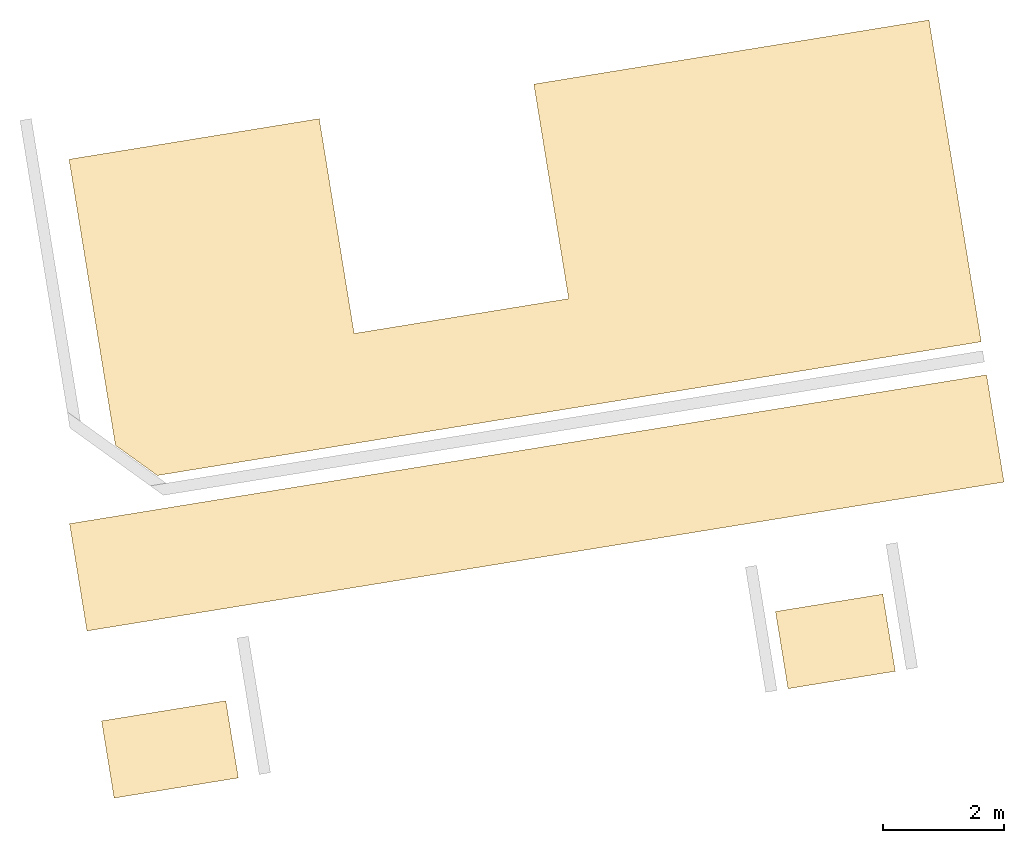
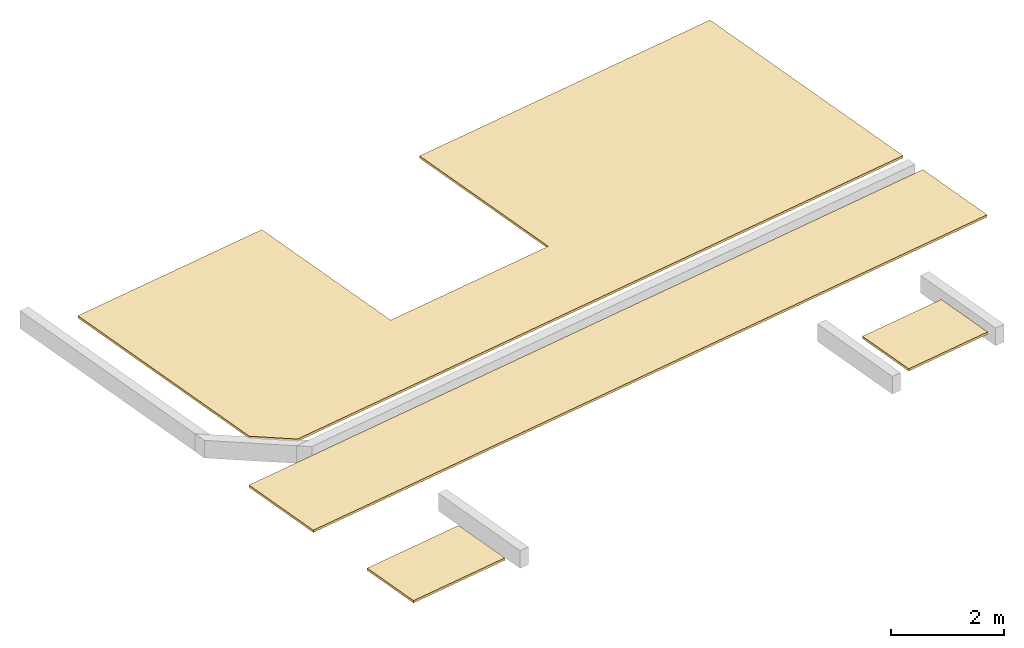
# One storey, part 2 of 2: 4 coverings.
"""IFC2X3 building model written with IfcOpenShell, lengths in millimetres."""

from ifc_helpers import new_model, entity, si_unit, converted_unit, derived_unit, direction, frame, origin, origin_with_axes, place, context, subcontext, project, spatial, faceted_brep, type_object, element, save


model = new_model("IFC2X3")

# Units and contexts
model_context = context("Model", 3, precision=0.01, world=origin(), true_north=direction((6.12323399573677e-17, 1.0)))
plan_context = context("Plan", 3, precision=1e-05, world=origin_with_axes())
body_context = subcontext(model_context, "Body", "Model", "MODEL_VIEW")
ifc_project = project(units=[converted_unit("PLANEANGLEUNIT", "DEGREE", entity("IfcPositiveLengthMeasure", 0.0174532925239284), si_unit("PLANEANGLEUNIT", "RADIAN"), dimensions=[0, 0, 0, 0, 0, 0, 0]), si_unit("AREAUNIT", "SQUARE_METRE"), si_unit("LENGTHUNIT", "METRE", prefix="MILLI"), si_unit("MASSUNIT", "GRAM", prefix="KILO"), si_unit("POWERUNIT", "WATT"), si_unit("PRESSUREUNIT", "PASCAL", prefix="KILO"), si_unit("FORCEUNIT", "NEWTON", prefix="KILO"), si_unit("ELECTRICVOLTAGEUNIT", "VOLT"), si_unit("ELECTRICCURRENTUNIT", "AMPERE"), si_unit("THERMODYNAMICTEMPERATUREUNIT", "DEGREE_CELSIUS"), si_unit("TIMEUNIT", "SECOND"), si_unit("VOLUMEUNIT", "CUBIC_METRE"), derived_unit("LINEARVELOCITYUNIT", [(si_unit("LENGTHUNIT", "METRE"), 1), (si_unit("TIMEUNIT", "SECOND"), -1)]), derived_unit("VOLUMETRICFLOWRATEUNIT", [(si_unit("VOLUMEUNIT", "CUBIC_METRE"), 1), (si_unit("TIMEUNIT", "SECOND"), -1)]), derived_unit("THERMALTRANSMITTANCEUNIT", [(si_unit("POWERUNIT", "WATT"), 1), (si_unit("THERMODYNAMICTEMPERATUREUNIT", "KELVIN"), -1), (si_unit("AREAUNIT", "SQUARE_METRE"), -1)]), derived_unit("SOUNDPRESSUREUNIT", [(si_unit("PRESSUREUNIT", "PASCAL"), 1)])], contexts=[model_context, plan_context])

# Site, building, storey
site_placement = place(None, frame((-0.00071070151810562, 0.00438415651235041, 0.0), z_axis=(0.0, 0.0, 1.0), x_axis=(-0.160236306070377, 0.987078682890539, 0.0)))
site = spatial("IfcSite", under=ifc_project, at=site_placement, Name="Default", CompositionType="ELEMENT")
building_placement = place(site_placement, origin_with_axes())
building = spatial("IfcBuilding", under=site, at=building_placement, Name="TOO", CompositionType="ELEMENT")
storey_placement = place(building_placement, frame((0.0, 0.0, 44699.9999999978), z_axis=(0.0, 0.0, 1.0), x_axis=(1.0, 0.0, 0.0)))
storey = spatial("IfcBuildingStorey", under=building, at=storey_placement, Name="Nivå B", CompositionType="ELEMENT", Elevation=44699.9999999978)

# Coverings
covering_type = type_object("IfcCoveringType", Name="Compound Ceiling:A256 A01 Akustiske plater direkkemonert", PredefinedType="CEILING")
covering_1_placement = place(storey_placement, origin_with_axes())
element("IfcCovering", 1, at=covering_1_placement, inside=storey, type_object=covering_type, Name="Compound Ceiling:A256 A01 Akustiske plater direkkemonert", ObjectType="Compound Ceiling:A256 A01 Akustiske plater direkkemonert", PredefinedType="CEILING", context=body_context, shape_type="Brep", body=[
    faceted_brep([(771487.619644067, -588892.481738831, 5630.0), (771487.619644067, -588892.481738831, 5680.0), (771487.619644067, -604282.480498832, 5680.0), (771487.619644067, -604282.480498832, 5630.0), (773287.619644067, -604282.480498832, 5630.0), (773287.619644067, -604282.480498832, 5680.0), (773287.619644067, -588892.481738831, 5680.0), (773287.619644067, -588892.481738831, 5630.0)], [[[0, 1, 2, 3]], [[4, 5, 6, 7]], [[3, 4, 7, 0]], [[5, 2, 1, 6]], [[7, 6, 1, 0]], [[5, 4, 3, 2]]], orient=[[False], [False], [False], [False], [False], [False]]),
])
covering_2_placement = place(storey_placement, origin_with_axes())
element("IfcCovering", 2, at=covering_2_placement, inside=storey, type_object=covering_type, Name="Compound Ceiling:A256 A01 Akustiske plater direkkemonert", ObjectType="Compound Ceiling:A256 A01 Akustiske plater direkkemonert", PredefinedType="CEILING", context=body_context, shape_type="Brep", body=[
    faceted_brep([(779242.619644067, -597650.64492867, 5630.0), (779242.619644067, -597650.64492867, 5680.0), (775642.619644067, -597650.64492867, 5680.0), (775642.619644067, -597650.64492867, 5630.0), (775642.619644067, -594050.644928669, 5680.0), (775642.619644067, -594050.644928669, 5630.0), (779247.619644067, -594050.644928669, 5680.0), (779247.619644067, -594050.644928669, 5630.0), (779247.619644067, -589850.644928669, 5680.0), (779247.619644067, -589850.644928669, 5630.0), (774447.619644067, -589850.644928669, 5680.0), (774447.619644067, -589850.644928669, 5630.0), (773842.619644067, -590455.644928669, 5680.0), (773842.619644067, -590455.644928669, 5630.0), (773842.619644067, -604282.480498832, 5680.0), (773842.619644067, -604282.480498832, 5630.0), (779242.619644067, -604282.480498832, 5630.0), (779242.619644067, -604282.480498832, 5680.0)], [[[0, 1, 2, 3]], [[3, 2, 4, 5]], [[5, 4, 6, 7]], [[7, 6, 8, 9]], [[9, 8, 10, 11]], [[11, 10, 12, 13]], [[14, 15, 13, 12]], [[16, 17, 1, 0]], [[15, 16, 0, 3, 5, 7, 9, 11, 13]], [[17, 14, 12, 10, 8, 6, 4, 2, 1]], [[17, 16, 15, 14]]], orient=[[False], [False], [False], [False], [False], [False], [False], [False], [False], [False], [False]]),
])
covering_3_placement = place(storey_placement, origin_with_axes())
element("IfcCovering", 3, at=covering_3_placement, inside=storey, type_object=covering_type, Name="Compound Ceiling:A256 A01 Akustiske plater direkkemonert", ObjectType="Compound Ceiling:A256 A01 Akustiske plater direkkemonert", PredefinedType="CEILING", context=body_context, shape_type="Brep", body=[
    faceted_brep([(768682.619644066, -590977.480498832, 5630.0), (768682.619644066, -590977.480498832, 5680.0), (769977.619644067, -590977.480498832, 5680.0), (769977.619644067, -590977.480498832, 5630.0), (769977.619644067, -588892.481738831, 5680.0), (769977.619644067, -588892.481738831, 5630.0), (768682.619644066, -588892.481738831, 5630.0), (768682.619644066, -588892.481738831, 5680.0)], [[[0, 1, 2, 3]], [[4, 5, 3, 2]], [[5, 6, 0, 3]], [[1, 7, 4, 2]], [[6, 5, 4, 7]], [[7, 1, 0, 6]]], orient=[[False], [False], [False], [False], [False], [False]]),
])
covering_4_placement = place(storey_placement, origin_with_axes())
element("IfcCovering", 4, at=covering_4_placement, inside=storey, type_object=covering_type, Name="Compound Ceiling:A256 A01 Akustiske plater direkkemonert", ObjectType="Compound Ceiling:A256 A01 Akustiske plater direkkemonert", PredefinedType="CEILING", context=body_context, shape_type="Brep", body=[
    faceted_brep([(768682.619644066, -600202.480498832, 5680.0), (768682.619644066, -600202.480498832, 5630.0), (769977.619644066, -600202.480498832, 5630.0), (769977.619644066, -600202.480498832, 5680.0), (768682.619644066, -602002.480498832, 5630.0), (768682.619644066, -602002.480498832, 5680.0), (769977.619644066, -602002.480498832, 5680.0), (769977.619644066, -602002.480498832, 5630.0)], [[[0, 1, 2, 3]], [[4, 5, 6, 7]], [[7, 6, 3, 2]], [[1, 4, 7, 2]], [[5, 0, 3, 6]], [[5, 4, 1, 0]]], orient=[[False], [False], [False], [False], [False], [False]]),
])

save(model, "model.ifc")
